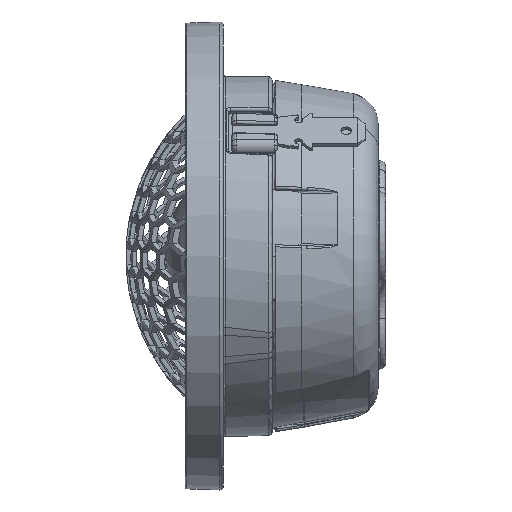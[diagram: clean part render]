
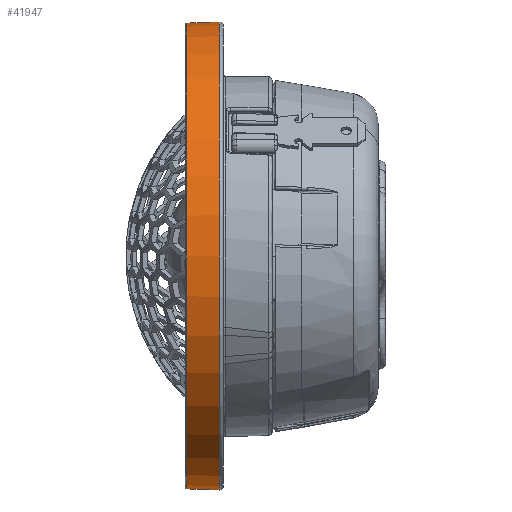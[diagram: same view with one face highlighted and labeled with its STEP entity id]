
A CAD part, left-side view. The second image highlights one B-rep face of the part: STEP entity #41947.
In plain terms, the highlighted conical face has half-angle 2 degrees and reference radius 30.975 mm.
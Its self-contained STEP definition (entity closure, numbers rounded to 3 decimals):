
#1287 = CIRCLE ( 'NONE', #39905, 30.807 ) ;
#2723 = DIRECTION ( 'NONE',  ( 0., -1., 0. ) ) ;
#6817 = ORIENTED_EDGE ( 'NONE', *, *, #18929, .T. ) ;
#13414 = VERTEX_POINT ( 'NONE', #42675 ) ;
#15133 = VERTEX_POINT ( 'NONE', #40898 ) ;
#18016 = LINE ( 'NONE', #52958, #29198 ) ;
#18690 = AXIS2_PLACEMENT_3D ( 'NONE', #24695, #45462, #66048 ) ;
#18752 = ORIENTED_EDGE ( 'NONE', *, *, #41838, .T. ) ;
#18929 = EDGE_CURVE ( 'NONE', #29639, #13414, #24000, .T. ) ;
#18979 = DIRECTION ( 'NONE',  ( 0., 0., 1. ) ) ;
#23015 = DIRECTION ( 'NONE',  ( 0., -0.999, -0.035 ) ) ;
#24000 = CIRCLE ( 'NONE', #18690, 30.957 ) ;
#24695 = CARTESIAN_POINT ( 'NONE',  ( 0., 20.995, 0. ) ) ;
#24775 = VECTOR ( 'NONE', #64558, 1000. ) ;
#27099 = AXIS2_PLACEMENT_3D ( 'NONE', #48802, #2723, #18979 ) ;
#27877 = EDGE_CURVE ( 'NONE', #15133, #29639, #18016, .T. ) ;
#29198 = VECTOR ( 'NONE', #23015, 1000. ) ;
#29639 = VERTEX_POINT ( 'NONE', #64807 ) ;
#30234 = CARTESIAN_POINT ( 'NONE',  ( 0., 25.284, 0. ) ) ;
#32620 = CARTESIAN_POINT ( 'NONE',  ( 0., 25.284, 30.807 ) ) ;
#32644 = CARTESIAN_POINT ( 'NONE',  ( 0., 20.477, 30.975 ) ) ;
#37927 = LINE ( 'NONE', #32644, #24775 ) ;
#39905 = AXIS2_PLACEMENT_3D ( 'NONE', #30234, #51687, #50694 ) ;
#40898 = CARTESIAN_POINT ( 'NONE',  ( 0., 25.284, -30.807 ) ) ;
#41766 = EDGE_LOOP ( 'NONE', ( #18752, #51540, #6817, #56242 ) ) ;
#41838 = EDGE_CURVE ( 'NONE', #46912, #15133, #1287, .T. ) ;
#41947 = ADVANCED_FACE ( 'NONE', ( #49487 ), #59289, .T. ) ;
#42675 = CARTESIAN_POINT ( 'NONE',  ( 0., 20.995, 30.957 ) ) ;
#45462 = DIRECTION ( 'NONE',  ( 0., 1., 0. ) ) ;
#46912 = VERTEX_POINT ( 'NONE', #32620 ) ;
#48802 = CARTESIAN_POINT ( 'NONE',  ( 0., 20.477, 0. ) ) ;
#49487 = FACE_OUTER_BOUND ( 'NONE', #41766, .T. ) ;
#50694 = DIRECTION ( 'NONE',  ( 0., 0., 1. ) ) ;
#51540 = ORIENTED_EDGE ( 'NONE', *, *, #27877, .T. ) ;
#51687 = DIRECTION ( 'NONE',  ( 0., -1., 0. ) ) ;
#52958 = CARTESIAN_POINT ( 'NONE',  ( 0., 20.477, -30.975 ) ) ;
#54698 = EDGE_CURVE ( 'NONE', #46912, #13414, #37927, .T. ) ;
#56242 = ORIENTED_EDGE ( 'NONE', *, *, #54698, .F. ) ;
#59289 = CONICAL_SURFACE ( 'NONE', #27099, 30.975, 0.035 ) ;
#64558 = DIRECTION ( 'NONE',  ( 0., -0.999, 0.035 ) ) ;
#64807 = CARTESIAN_POINT ( 'NONE',  ( 0., 20.995, -30.957 ) ) ;
#66048 = DIRECTION ( 'NONE',  ( 0., 0., -1. ) ) ;
